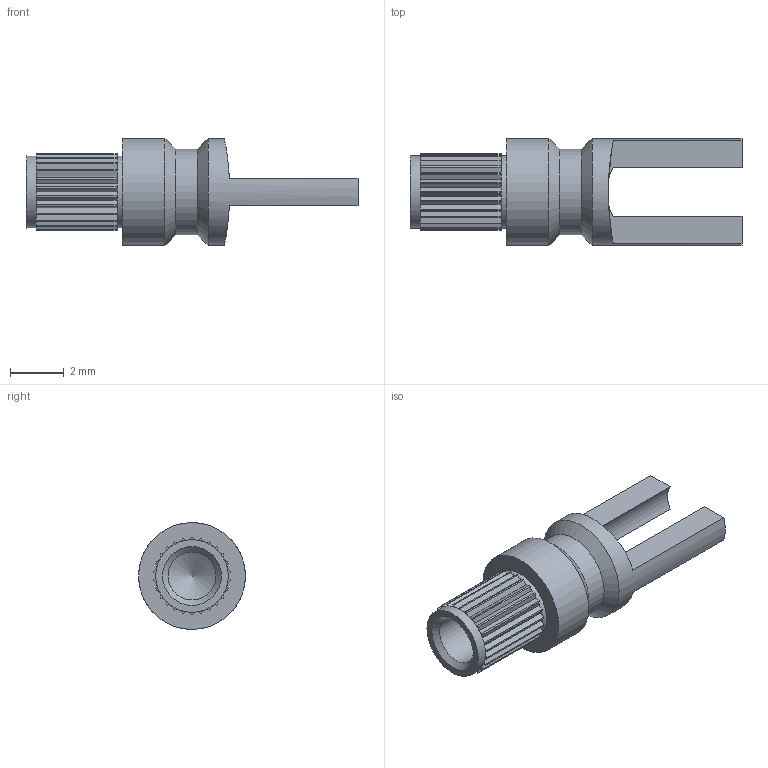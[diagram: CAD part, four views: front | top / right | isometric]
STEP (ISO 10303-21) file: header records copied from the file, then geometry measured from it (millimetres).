
FILE_DESCRIPTION(/* description */ (''),/* implementation_level */ '2;1');
FILE_NAME(/* name */ 'Z:\STEP folder\140-1937-03.ipt.stp',/* time_stamp */ '2016-12-07T10:39:59+00:00',/* author */ ('Paul Karlsons'),/* organization */ (''),/* preprocessor_version */ 'ST-DEVELOPER v15.2',/* originating_system */ 'Autodesk Inventor 2014',/* authorisation */ '');
FILE_SCHEMA (('AUTOMOTIVE_DESIGN { 1 0 10303 214 3 1 1 }'));
Length unit declared in the file: millimetre
Products named in the file (1): 140-1937-03
Bounding box: 12.32 x 3.96 x 3.96 mm (x, y, z)
Volume: 65.2 mm3; surface area: 168.4 mm2
Topology: 1 solids, 1 shells, 205 faces, 498 edges, 295 vertices
Faces by surface type: plane 164, cylinder 36, cone 5
Full cylindrical faces by diameter (mm): 1.778 x1, 2.692 x2, 3.175 x1, 3.962 x2
Entity records: 5869 total; most frequent: DIRECTION 1062, CARTESIAN_POINT 1046, ORIENTED_EDGE 964, EDGE_CURVE 482, AXIS2_PLACEMENT_3D 382, LINE 298, VECTOR 298, VERTEX_POINT 290
